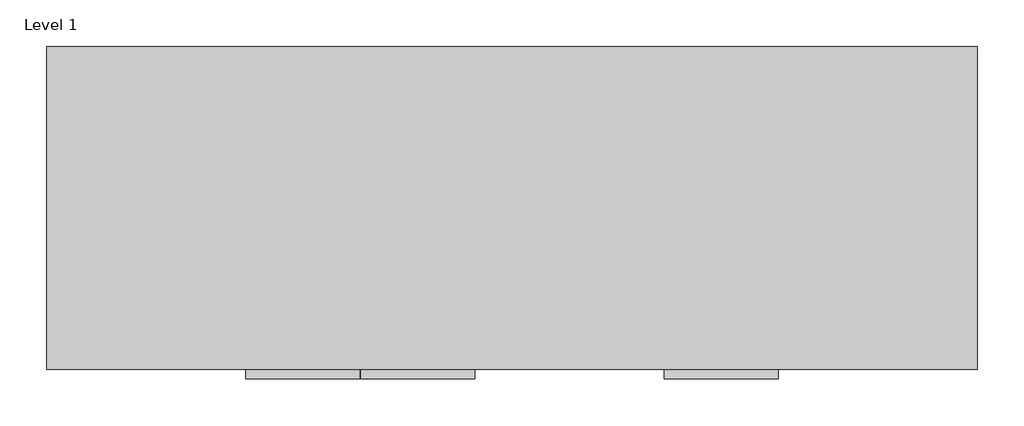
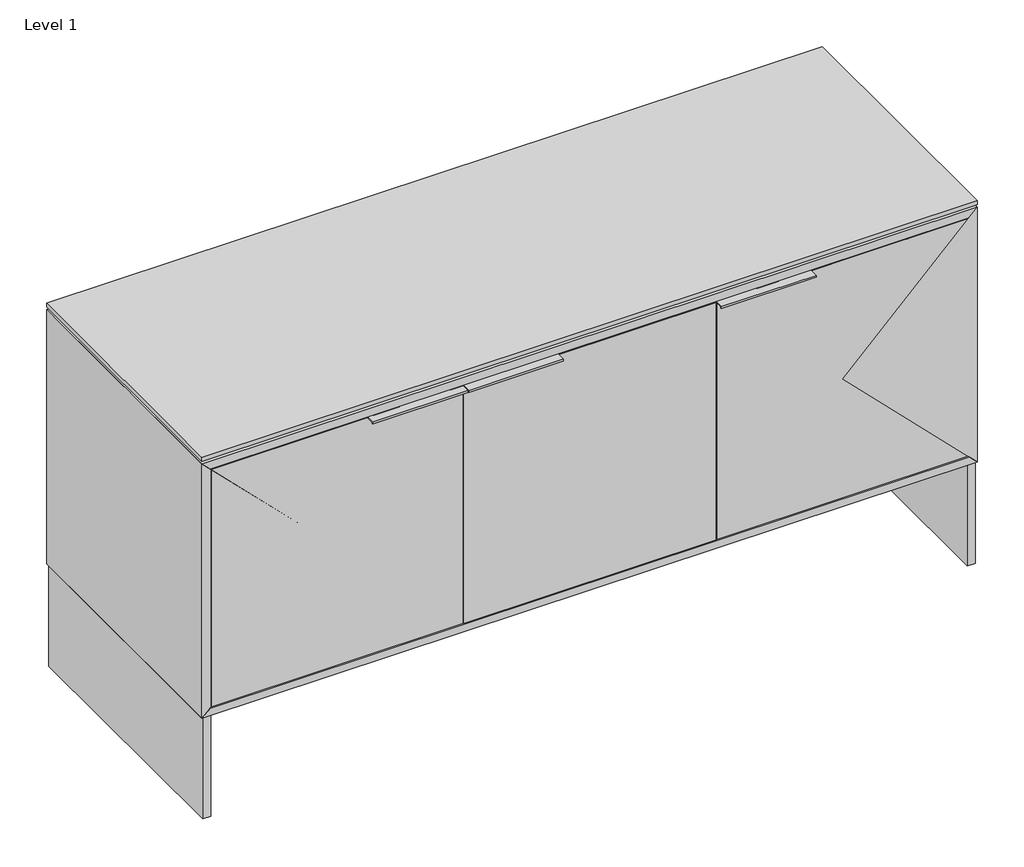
# One storey: 4 proxies.
"""IFC4 building model written with IfcOpenShell, lengths in millimetres."""

from ifc_helpers import new_model, si_unit, origin, place, context, project, spatial, transform, mapped, element, save
from components import generic_models_aee5ed7d, generic_models_1e823878

model = new_model("IFC4")

# Units and contexts
model_context = context("Model", 3, world=origin())
ifc_project = project(units=[si_unit("LENGTHUNIT", "METRE", prefix="MILLI")], contexts=[model_context])

# Site, building, storey
site = spatial("IfcSite", under=ifc_project)
building = spatial("IfcBuilding", under=site)
storey = spatial("IfcBuildingStorey", under=building, Name="Level 1", Elevation=0.0)

# Proxies
placement = place(None, origin())
generic_models_shape = generic_models_aee5ed7d(model_context)
element("IfcBuildingElementProxy", 1, Name="HAFELE 106.04.06-3 FINISHES", ObjectType="HAFELE 106.04.06-3 FINISHES", at=placement, inside=storey, context=model_context, shape_type="MappedRepresentation", body=[
    mapped(generic_models_shape, transform((404.795883, -458.6713511, 425.3473047), x_axis=(1.0, 0.0, 0.0), y_axis=(0.0, 0.0, 1.0), z_axis=(0.0, -1.0, 0.0))),
])
element("IfcBuildingElementProxy", 2, Name="HAFELE 106.04.06-3 FINISHES", ObjectType="HAFELE 106.04.06-3 FINISHES", at=placement, inside=storey, context=model_context, shape_type="MappedRepresentation", body=[
    mapped(generic_models_shape, transform((-417.694217, -458.6713511, 425.3473047), x_axis=(1.0, 0.0, 0.0), y_axis=(0.0, 0.0, 1.0), z_axis=(0.0, -1.0, 0.0))),
])
element("IfcBuildingElementProxy", 3, Name="HAFELE 106.04.06-3 FINISHES", ObjectType="HAFELE 106.04.06-3 FINISHES", at=placement, inside=storey, context=model_context, shape_type="MappedRepresentation", body=[
    mapped(generic_models_shape, transform((-191.310367, -458.6713511, 425.3473047), x_axis=(1.0, 0.0, 0.0), y_axis=(0.0, 0.0, 1.0), z_axis=(0.0, -1.0, 0.0))),
])
generic_models_2_shape = generic_models_1e823878(model_context)
element("IfcBuildingElementProxy", 4, Name="ELEVATE^CREDENZA 35h_25x72 3 DOOR-PARTS SOLID", ObjectType="ELEVATE^CREDENZA 35h_25x72 3 DOOR-PARTS SOLID", at=placement, inside=storey, context=model_context, shape_type="MappedRepresentation", body=[
    mapped(generic_models_2_shape, transform((-808.847867, 157.2786489, -188.2214453), x_axis=(1.0, 0.0, 0.0), y_axis=(0.0, 0.0, 1.0), z_axis=(0.0, -1.0, 0.0))),
])

save(model, "model.ifc")
